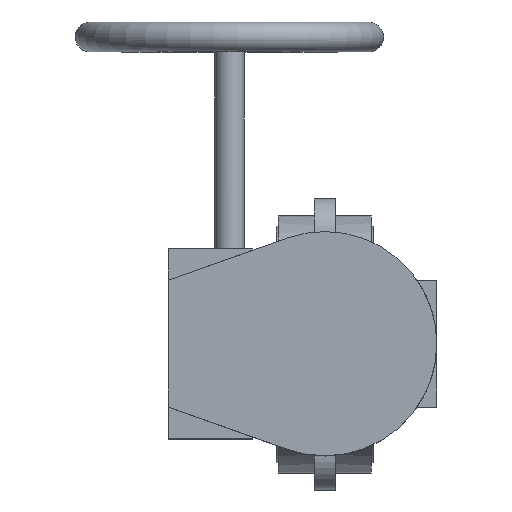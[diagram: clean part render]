
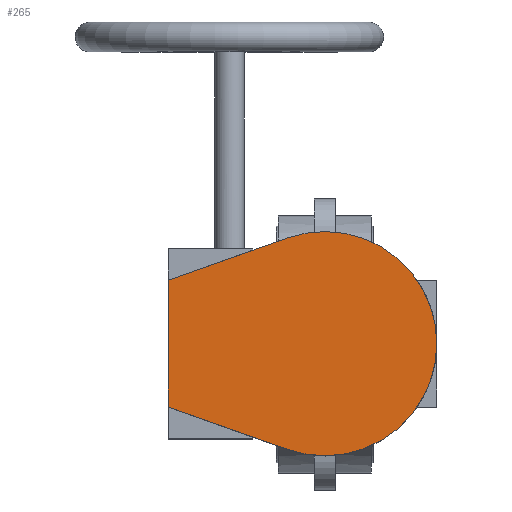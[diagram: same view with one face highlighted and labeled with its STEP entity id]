
A CAD part, top view. The second image highlights one B-rep face of the part: STEP entity #265.
In plain terms, the highlighted planar face has unit normal (0, 0, 1).
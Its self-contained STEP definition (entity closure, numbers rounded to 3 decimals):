
#265=ADVANCED_FACE('',(#6192),#6194,.T.);
#6192=FACE_BOUND('',#6193,.T.);
#6193=EDGE_LOOP('',(#10900,#10901,#10902,#10903));
#6194=PLANE('',#6195);
#6195=AXIS2_PLACEMENT_3D('',#6196,#6197,#6198);
#6196=CARTESIAN_POINT('',(0.,0.,220.));
#6197=DIRECTION('',(0.,0.,1.));
#6198=DIRECTION('',(0.,1.,0.));
#10900=ORIENTED_EDGE('',*,*,#14592,.T.);
#10901=ORIENTED_EDGE('',*,*,#14588,.T.);
#10902=ORIENTED_EDGE('',*,*,#14581,.T.);
#10903=ORIENTED_EDGE('',*,*,#14576,.T.);
#14576=EDGE_CURVE('',#16506,#16504,#16507,.T.);
#14581=EDGE_CURVE('',#16514,#16506,#16515,.T.);
#14588=EDGE_CURVE('',#16527,#16514,#16528,.T.);
#14592=EDGE_CURVE('',#16504,#16527,#16533,.T.);
#16504=VERTEX_POINT('',#19721);
#16506=VERTEX_POINT('',#19725);
#16507=LINE('',#19726,#19727);
#16514=VERTEX_POINT('',#19743);
#16515=LINE('',#19744,#19745);
#16527=VERTEX_POINT('',#19770);
#16528=LINE('',#19771,#19772);
#16533=CIRCLE('',#19784,53.);
#19721=CARTESIAN_POINT('',(-17.708,-49.954,220.));
#19725=CARTESIAN_POINT('',(-74.,-30.,220.));
#19726=CARTESIAN_POINT('',(-74.,-30.,220.));
#19727=VECTOR('',#19728,1.);
#19728=DIRECTION('',(0.943,-0.334,0.));
#19743=CARTESIAN_POINT('',(-74.,30.,220.));
#19744=CARTESIAN_POINT('',(-74.,30.,220.));
#19745=VECTOR('',#19746,1.);
#19746=DIRECTION('',(0.,-1.,0.));
#19770=CARTESIAN_POINT('',(-17.708,49.954,220.));
#19771=CARTESIAN_POINT('',(-17.708,49.954,220.));
#19772=VECTOR('',#19773,1.);
#19773=DIRECTION('',(-0.943,-0.334,0.));
#19784=AXIS2_PLACEMENT_3D('',#19785,#19786,#19787);
#19785=CARTESIAN_POINT('',(0.,0.,220.));
#19786=DIRECTION('',(0.,0.,1.));
#19787=DIRECTION('',(-0.334,-0.943,0.));
